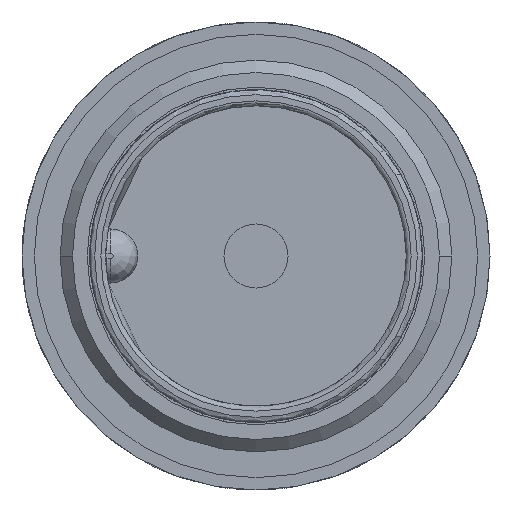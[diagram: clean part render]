
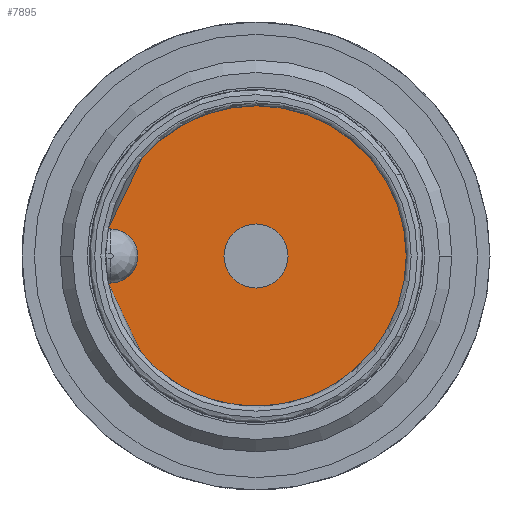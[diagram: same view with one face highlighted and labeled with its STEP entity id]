
A CAD part, front view. The second image highlights one B-rep face of the part: STEP entity #7895.
In plain terms, the highlighted free-form (B-spline) face has degree [1, 1] with [2, 2] control points.
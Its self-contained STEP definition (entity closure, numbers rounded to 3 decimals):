
#7843=CARTESIAN_POINT('',(-6.,9.05,6.1));
#7844=CARTESIAN_POINT('',(6.1,9.05,6.1));
#7845=CARTESIAN_POINT('',(-6.,9.05,-6.1));
#7846=CARTESIAN_POINT('',(6.1,9.05,-6.1));
#7847=B_SPLINE_SURFACE_WITH_KNOTS('',1,1,((#7843,#7845),(#7844,#7846)),.UNSPECIFIED.,.F.,.F.,.U.,(2,2),(2,2),(0.0,12.1),(0.0,12.2),.UNSPECIFIED.);
#7848=CARTESIAN_POINT('',(-5.9,9.05,-1.1));
#7849=VERTEX_POINT('',#7848);
#7850=CARTESIAN_POINT('',(-6.,9.05,-1.1));
#7851=VERTEX_POINT('',#7850);
#7852=CARTESIAN_POINT('',(-5.9,9.05,-1.1));
#7853=DIRECTION('',(-1.0,0.0,0.0));
#7854=VECTOR('',#7853,0.1);
#7855=LINE('',#7852,#7854);
#7856=EDGE_CURVE('',#7849,#7851,#7855,.T.);
#7857=ORIENTED_EDGE('',*,*,#7856,.T.);
#7858=CARTESIAN_POINT('',(-6.,9.05,1.1));
#7859=VERTEX_POINT('',#7858);
#7860=CARTESIAN_POINT('',(0.,9.05,0.));
#7861=DIRECTION('',(0.0,-1.0,0.0));
#7862=DIRECTION('',(1.0,0.0,0.0));
#7863=AXIS2_PLACEMENT_3D('',#7860,#7861,#7862);
#7864=CIRCLE('',#7863,6.1);
#7865=EDGE_CURVE('',#7851,#7859,#7864,.T.);
#7866=ORIENTED_EDGE('',*,*,#7865,.T.);
#7867=CARTESIAN_POINT('',(-5.9,9.05,1.1));
#7868=VERTEX_POINT('',#7867);
#7869=CARTESIAN_POINT('',(-6.,9.05,1.1));
#7870=DIRECTION('',(1.0,0.0,0.0));
#7871=VECTOR('',#7870,0.1);
#7872=LINE('',#7869,#7871);
#7873=EDGE_CURVE('',#7859,#7868,#7872,.T.);
#7874=ORIENTED_EDGE('',*,*,#7873,.T.);
#7875=CARTESIAN_POINT('',(-5.9,9.05,0.));
#7876=DIRECTION('',(0.,1.0,0.));
#7877=DIRECTION('',(0.707,0.,-0.707));
#7878=AXIS2_PLACEMENT_3D('',#7875,#7876,#7877);
#7879=CIRCLE('',#7878,1.1);
#7880=EDGE_CURVE('',#7849,#7868,#7879,.F.);
#7881=ORIENTED_EDGE('',*,*,#7880,.F.);
#7882=EDGE_LOOP('',(#7857,#7866,#7874,#7881));
#7883=FACE_OUTER_BOUND('',#7882,.T.);
#7884=CARTESIAN_POINT('',(1.3,9.05,0.));
#7885=VERTEX_POINT('',#7884);
#7886=CARTESIAN_POINT('',(0.,9.05,0.));
#7887=DIRECTION('',(0.0,1.0,0.0));
#7888=DIRECTION('',(-1.0,0.0,0.0));
#7889=AXIS2_PLACEMENT_3D('',#7886,#7887,#7888);
#7890=CIRCLE('',#7889,1.3);
#7891=EDGE_CURVE('',#7885,#7885,#7890,.T.);
#7892=ORIENTED_EDGE('',*,*,#7891,.T.);
#7893=EDGE_LOOP('',(#7892));
#7894=FACE_BOUND('',#7893,.T.);
#7895=ADVANCED_FACE('',(#7883,#7894),#7847,.F.);
